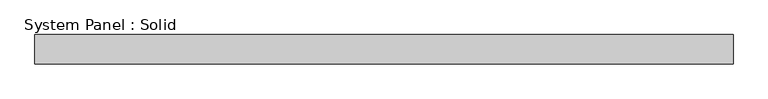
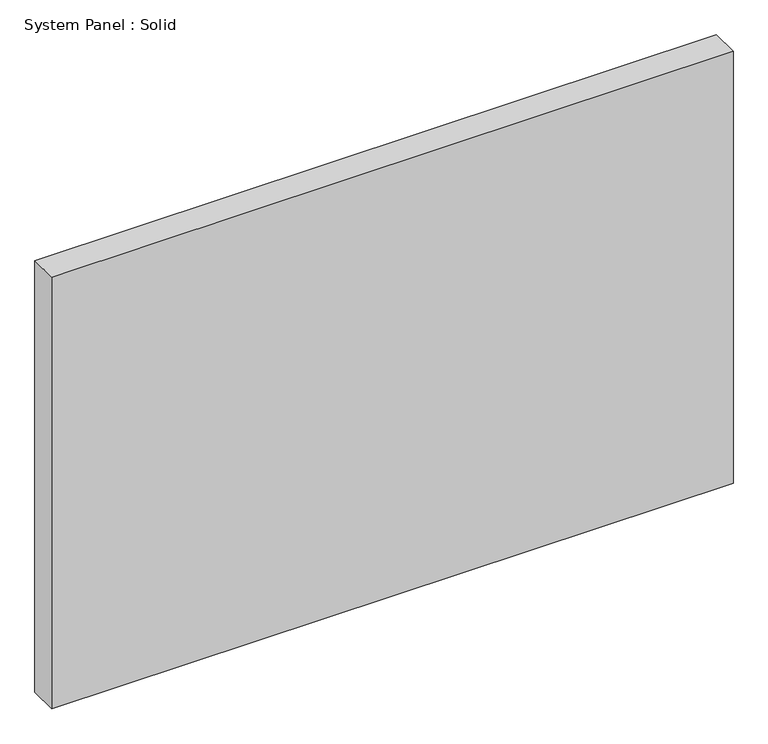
"""IFC4 building model written with IfcOpenShell, lengths in millimetres: plate geometry, System Panel : Solid."""

from ifc_helpers import new_model, si_unit, origin, origin_with_axes, place, context, project, spatial, polyline, outline, extrude, source, transform, mapped, element, save


def system_panel_solid_b1352277(model_context):
    return source(origin(), model_context, "Body", "SweptSolid", [
        extrude(outline(polyline([(749.3, -19.05), (-749.3, -19.05), (-749.3, 44.45), (749.3, 44.45), (749.3, -19.05)])), origin_with_axes(), (0.0, 0.0, 1.0), 1003.3),
    ])


if __name__ == "__main__":
    model = new_model("IFC4")
    model_context = context("Model", 3, world=origin())
    ifc_project = project(units=[si_unit("LENGTHUNIT", "METRE", prefix="MILLI")], contexts=[model_context])
    site = spatial("IfcSite", under=ifc_project)
    building = spatial("IfcBuilding", under=site)
    placement = place(None, origin())
    system_panel_solid_shape = system_panel_solid_b1352277(model_context)
    element("IfcPlate", 1, ObjectType="System Panel : Solid", at=placement, inside=building, context=model_context, shape_type="MappedRepresentation", body=[
        mapped(system_panel_solid_shape, transform((0.0, 0.0, 0.0), x_axis=(1.0, 0.0, 0.0), y_axis=(0.0, 1.0, 0.0), z_axis=(0.0, 0.0, 1.0))),
    ])
    save(model, "model.ifc")
